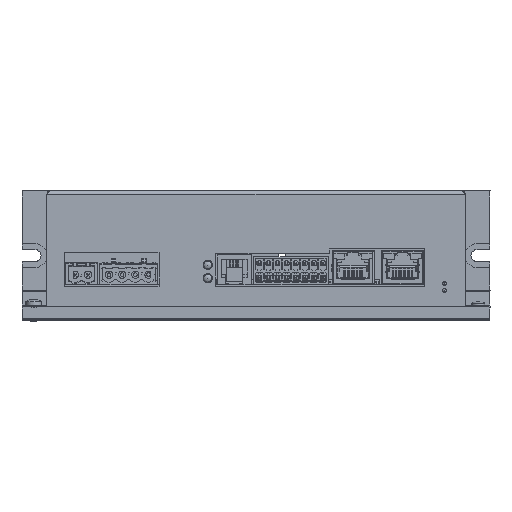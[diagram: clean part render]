
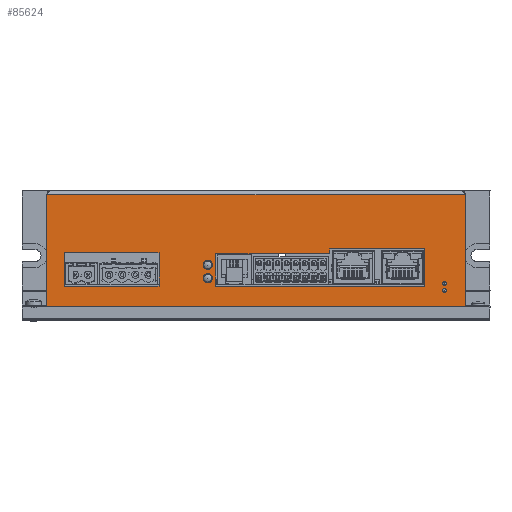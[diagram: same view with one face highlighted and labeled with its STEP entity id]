
A CAD part, top view. The second image highlights one B-rep face of the part: STEP entity #85624.
In plain terms, the highlighted planar face has unit normal (0, 0, 1).
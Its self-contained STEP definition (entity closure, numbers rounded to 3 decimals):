
#3828=CIRCLE('',#91465,0.75);
#3829=CIRCLE('',#91466,0.75);
#3830=CIRCLE('',#91467,1.8);
#3831=CIRCLE('',#91468,1.8);
#21870=ORIENTED_EDGE('',*,*,#32300,.F.);
#21871=ORIENTED_EDGE('',*,*,#32301,.F.);
#21872=ORIENTED_EDGE('',*,*,#32302,.F.);
#21873=ORIENTED_EDGE('',*,*,#32303,.F.);
#21874=ORIENTED_EDGE('',*,*,#32304,.F.);
#21875=ORIENTED_EDGE('',*,*,#32305,.F.);
#21876=ORIENTED_EDGE('',*,*,#32306,.F.);
#21877=ORIENTED_EDGE('',*,*,#32307,.F.);
#21878=ORIENTED_EDGE('',*,*,#32308,.F.);
#21879=ORIENTED_EDGE('',*,*,#32309,.F.);
#21880=ORIENTED_EDGE('',*,*,#32310,.F.);
#21881=ORIENTED_EDGE('',*,*,#32311,.F.);
#21882=ORIENTED_EDGE('',*,*,#32312,.F.);
#21883=ORIENTED_EDGE('',*,*,#32313,.F.);
#21884=ORIENTED_EDGE('',*,*,#32199,.T.);
#21885=ORIENTED_EDGE('',*,*,#32299,.T.);
#21886=ORIENTED_EDGE('',*,*,#32314,.F.);
#21887=ORIENTED_EDGE('',*,*,#32200,.F.);
#32199=EDGE_CURVE('',#38926,#38931,#45413,.T.);
#32200=EDGE_CURVE('',#38926,#38932,#45414,.T.);
#32299=EDGE_CURVE('',#38931,#39023,#45472,.T.);
#32300=EDGE_CURVE('',#39024,#39024,#3828,.F.);
#32301=EDGE_CURVE('',#39025,#39025,#3829,.F.);
#32302=EDGE_CURVE('',#39026,#39027,#45473,.T.);
#32303=EDGE_CURVE('',#39028,#39026,#45474,.T.);
#32304=EDGE_CURVE('',#39029,#39028,#45475,.T.);
#32305=EDGE_CURVE('',#39030,#39029,#45476,.T.);
#32306=EDGE_CURVE('',#39031,#39030,#45477,.T.);
#32307=EDGE_CURVE('',#39027,#39031,#45478,.T.);
#32308=EDGE_CURVE('',#39032,#39033,#45479,.T.);
#32309=EDGE_CURVE('',#39034,#39032,#45480,.T.);
#32310=EDGE_CURVE('',#39035,#39034,#45481,.T.);
#32311=EDGE_CURVE('',#39033,#39035,#45482,.T.);
#32312=EDGE_CURVE('',#39036,#39036,#3830,.F.);
#32313=EDGE_CURVE('',#39037,#39037,#3831,.F.);
#32314=EDGE_CURVE('',#38932,#39023,#45483,.T.);
#38926=VERTEX_POINT('',#130023);
#38931=VERTEX_POINT('',#130053);
#38932=VERTEX_POINT('',#130057);
#39023=VERTEX_POINT('',#130311);
#39024=VERTEX_POINT('',#130315);
#39025=VERTEX_POINT('',#130317);
#39026=VERTEX_POINT('',#130319);
#39027=VERTEX_POINT('',#130320);
#39028=VERTEX_POINT('',#130322);
#39029=VERTEX_POINT('',#130324);
#39030=VERTEX_POINT('',#130326);
#39031=VERTEX_POINT('',#130328);
#39032=VERTEX_POINT('',#130331);
#39033=VERTEX_POINT('',#130332);
#39034=VERTEX_POINT('',#130334);
#39035=VERTEX_POINT('',#130336);
#39036=VERTEX_POINT('',#130339);
#39037=VERTEX_POINT('',#130341);
#45413=LINE('',#130054,#51667);
#45414=LINE('',#130056,#51668);
#45472=LINE('',#130312,#51726);
#45473=LINE('',#130318,#51727);
#45474=LINE('',#130321,#51728);
#45475=LINE('',#130323,#51729);
#45476=LINE('',#130325,#51730);
#45477=LINE('',#130327,#51731);
#45478=LINE('',#130329,#51732);
#45479=LINE('',#130330,#51733);
#45480=LINE('',#130333,#51734);
#45481=LINE('',#130335,#51735);
#45482=LINE('',#130337,#51736);
#45483=LINE('',#130342,#51737);
#51667=VECTOR('',#108372,1000.);
#51668=VECTOR('',#108375,1000.);
#51726=VECTOR('',#108513,1000.);
#51727=VECTOR('',#108520,1000.);
#51728=VECTOR('',#108521,1000.);
#51729=VECTOR('',#108522,1000.);
#51730=VECTOR('',#108523,1000.);
#51731=VECTOR('',#108524,1000.);
#51732=VECTOR('',#108525,1000.);
#51733=VECTOR('',#108526,1000.);
#51734=VECTOR('',#108527,1000.);
#51735=VECTOR('',#108528,1000.);
#51736=VECTOR('',#108529,1000.);
#51737=VECTOR('',#108534,1000.);
#55914=EDGE_LOOP('',(#21870));
#55915=EDGE_LOOP('',(#21871));
#55916=EDGE_LOOP('',(#21872,#21873,#21874,#21875,#21876,#21877));
#55917=EDGE_LOOP('',(#21878,#21879,#21880,#21881));
#55918=EDGE_LOOP('',(#21882));
#55919=EDGE_LOOP('',(#21883));
#55920=EDGE_LOOP('',(#21884,#21885,#21886,#21887));
#60277=FACE_BOUND('',#55914,.T.);
#60278=FACE_BOUND('',#55915,.T.);
#60279=FACE_BOUND('',#55916,.T.);
#60280=FACE_BOUND('',#55917,.T.);
#60281=FACE_BOUND('',#55918,.T.);
#60282=FACE_BOUND('',#55919,.T.);
#60283=FACE_BOUND('',#55920,.T.);
#62865=PLANE('',#91464);
#85624=ADVANCED_FACE('',(#60277,#60278,#60279,#60280,#60281,#60282,#60283),
#62865,.F.);
#91464=AXIS2_PLACEMENT_3D('',#130313,#108514,#108515);
#91465=AXIS2_PLACEMENT_3D('',#130314,#108516,#108517);
#91466=AXIS2_PLACEMENT_3D('',#130316,#108518,#108519);
#91467=AXIS2_PLACEMENT_3D('',#130338,#108530,#108531);
#91468=AXIS2_PLACEMENT_3D('',#130340,#108532,#108533);
#108372=DIRECTION('',(0.,-1.,0.));
#108375=DIRECTION('',(1.,0.,0.));
#108513=DIRECTION('',(1.,0.,0.));
#108514=DIRECTION('',(0.,0.,-1.));
#108515=DIRECTION('',(1.,0.,0.));
#108516=DIRECTION('',(0.,0.,-1.));
#108517=DIRECTION('',(0.,1.,0.));
#108518=DIRECTION('',(0.,0.,-1.));
#108519=DIRECTION('',(0.,1.,0.));
#108520=DIRECTION('',(0.,1.,0.));
#108521=DIRECTION('',(1.,0.,0.));
#108522=DIRECTION('',(0.,-1.,0.));
#108523=DIRECTION('',(-1.,0.,0.));
#108524=DIRECTION('',(0.,-1.,0.));
#108525=DIRECTION('',(-1.,0.,0.));
#108526=DIRECTION('',(1.,0.,0.));
#108527=DIRECTION('',(0.,-1.,0.));
#108528=DIRECTION('',(-1.,0.,0.));
#108529=DIRECTION('',(0.,1.,0.));
#108530=DIRECTION('',(0.,0.,-1.));
#108531=DIRECTION('',(0.,1.,0.));
#108532=DIRECTION('',(0.,0.,-1.));
#108533=DIRECTION('',(0.,1.,0.));
#108534=DIRECTION('',(0.,-1.,0.));
#130023=CARTESIAN_POINT('',(-80.75,-1.7,62.5));
#130053=CARTESIAN_POINT('',(-80.75,-45.,62.5));
#130054=CARTESIAN_POINT('',(-80.75,0.,62.5));
#130056=CARTESIAN_POINT('',(-80.75,-1.7,62.5));
#130057=CARTESIAN_POINT('',(80.75,-1.7,62.5));
#130311=CARTESIAN_POINT('',(80.75,-45.,62.5));
#130312=CARTESIAN_POINT('',(80.75,-45.,62.5));
#130313=CARTESIAN_POINT('',(80.75,0.,62.5));
#130314=CARTESIAN_POINT('',(72.75,-36.,62.5));
#130315=CARTESIAN_POINT('',(72.75,-35.25,62.5));
#130316=CARTESIAN_POINT('',(72.75,-38.6,62.5));
#130317=CARTESIAN_POINT('',(72.75,-37.85,62.5));
#130318=CARTESIAN_POINT('',(65.25,0.,62.5));
#130319=CARTESIAN_POINT('',(65.25,-37.,62.5));
#130320=CARTESIAN_POINT('',(65.25,-22.6,62.5));
#130321=CARTESIAN_POINT('',(80.75,-37.,62.5));
#130322=CARTESIAN_POINT('',(-15.55,-37.,62.5));
#130323=CARTESIAN_POINT('',(-15.55,0.,62.5));
#130324=CARTESIAN_POINT('',(-15.55,-24.4,62.5));
#130325=CARTESIAN_POINT('',(80.75,-24.4,62.5));
#130326=CARTESIAN_POINT('',(28.45,-24.4,62.5));
#130327=CARTESIAN_POINT('',(28.45,0.,62.5));
#130328=CARTESIAN_POINT('',(28.45,-22.6,62.5));
#130329=CARTESIAN_POINT('',(80.75,-22.6,62.5));
#130330=CARTESIAN_POINT('',(80.75,-37.,62.5));
#130331=CARTESIAN_POINT('',(-74.05,-37.,62.5));
#130332=CARTESIAN_POINT('',(-37.45,-37.,62.5));
#130333=CARTESIAN_POINT('',(-74.05,0.,62.5));
#130334=CARTESIAN_POINT('',(-74.05,-24.,62.5));
#130335=CARTESIAN_POINT('',(80.75,-24.,62.5));
#130336=CARTESIAN_POINT('',(-37.45,-24.,62.5));
#130337=CARTESIAN_POINT('',(-37.45,0.,62.5));
#130338=CARTESIAN_POINT('',(-18.65,-28.8,62.5));
#130339=CARTESIAN_POINT('',(-18.65,-27.,62.5));
#130340=CARTESIAN_POINT('',(-18.65,-33.9,62.5));
#130341=CARTESIAN_POINT('',(-18.65,-32.1,62.5));
#130342=CARTESIAN_POINT('',(80.75,-23.35,62.5));
